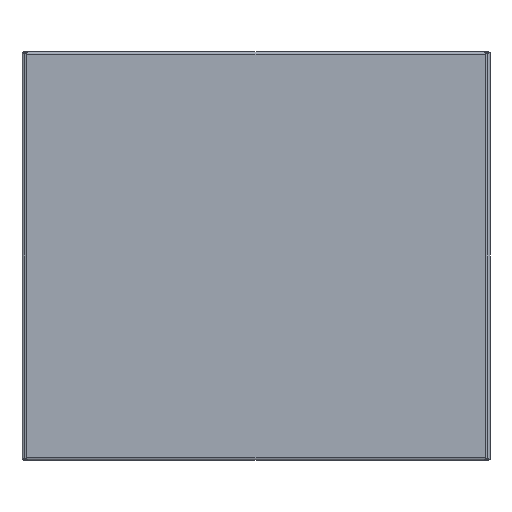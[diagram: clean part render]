
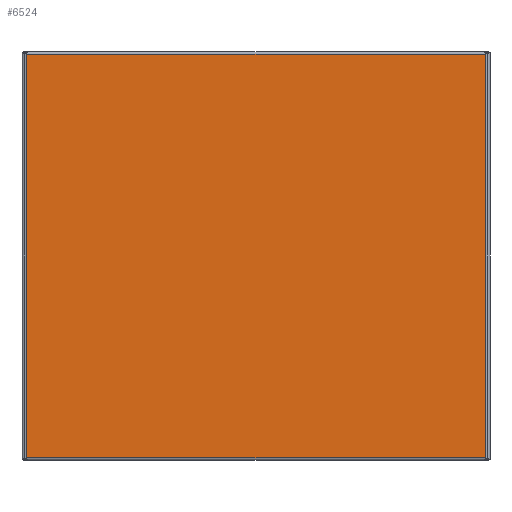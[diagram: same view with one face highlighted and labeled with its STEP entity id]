
A CAD part, front view. The second image highlights one B-rep face of the part: STEP entity #6524.
In plain terms, the highlighted planar face has unit normal (0, -1, 0).
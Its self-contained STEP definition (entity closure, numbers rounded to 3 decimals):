
#496=ORIENTED_EDGE('',*,*,#2396,.T.);
#497=ORIENTED_EDGE('',*,*,#2397,.F.);
#498=ORIENTED_EDGE('',*,*,#2398,.F.);
#499=ORIENTED_EDGE('',*,*,#2399,.T.);
#2396=EDGE_CURVE('',#3334,#3340,#3936,.T.);
#2397=EDGE_CURVE('',#3341,#3340,#3937,.T.);
#2398=EDGE_CURVE('',#3342,#3341,#3938,.T.);
#2399=EDGE_CURVE('',#3342,#3334,#3939,.T.);
#3334=VERTEX_POINT('',#9713);
#3340=VERTEX_POINT('',#9728);
#3341=VERTEX_POINT('',#9730);
#3342=VERTEX_POINT('',#9732);
#3936=LINE('',#9727,#4728);
#3937=LINE('',#9729,#4729);
#3938=LINE('',#9731,#4730);
#3939=LINE('',#9733,#4731);
#4728=VECTOR('',#7801,1000.);
#4729=VECTOR('',#7802,1000.);
#4730=VECTOR('',#7803,1000.);
#4731=VECTOR('',#7804,1000.);
#5396=EDGE_LOOP('',(#496,#497,#498,#499));
#5816=FACE_BOUND('',#5396,.T.);
#6227=PLANE('',#7090);
#6524=ADVANCED_FACE('',(#5816),#6227,.T.);
#7090=AXIS2_PLACEMENT_3D('',#9726,#7799,#7800);
#7799=DIRECTION('',(0.,-1.,0.));
#7800=DIRECTION('',(0.,0.,-1.));
#7801=DIRECTION('',(-1.,0.,0.));
#7802=DIRECTION('',(0.,0.,1.));
#7803=DIRECTION('',(-1.,0.,0.));
#7804=DIRECTION('',(0.,0.,1.));
#9713=CARTESIAN_POINT('',(298.54,0.,263.1));
#9726=CARTESIAN_POINT('',(0.,0.,0.));
#9727=CARTESIAN_POINT('',(298.54,0.,263.1));
#9728=CARTESIAN_POINT('',(-298.54,0.,263.1));
#9729=CARTESIAN_POINT('',(-298.54,0.,0.));
#9730=CARTESIAN_POINT('',(-298.54,0.,-263.1));
#9731=CARTESIAN_POINT('',(298.54,0.,-263.1));
#9732=CARTESIAN_POINT('',(298.54,0.,-263.1));
#9733=CARTESIAN_POINT('',(298.54,0.,0.));
